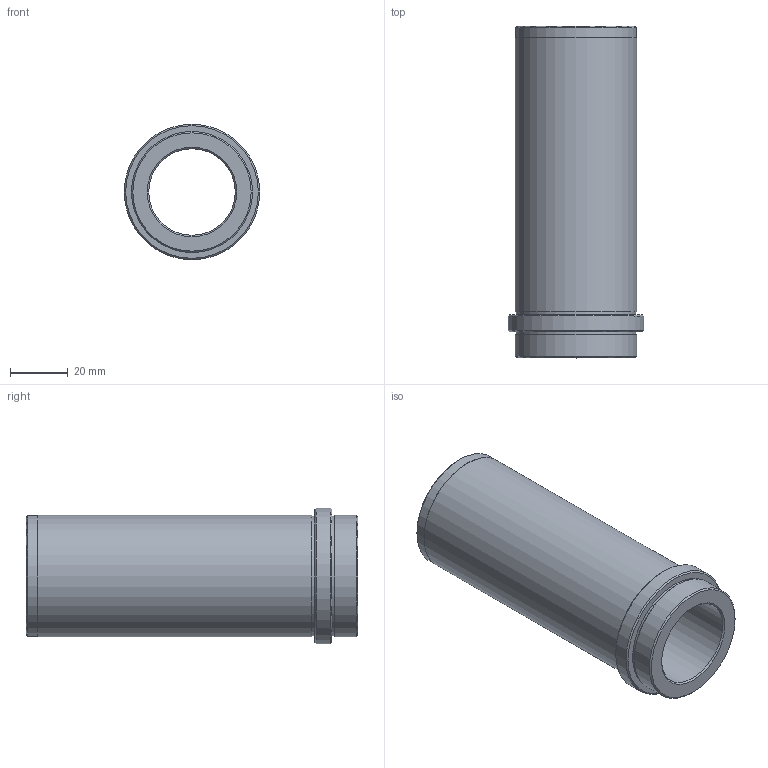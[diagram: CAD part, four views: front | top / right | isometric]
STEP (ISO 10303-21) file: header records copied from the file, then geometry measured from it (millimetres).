
FILE_DESCRIPTION( ( 'STEP AP203' ), '1' );
FILE_NAME( 'D:/Cuma/24 03 2009/D21/D21_30X106.step', '2002-12-31T22:07:51', ( ' ' ), ( ' ' ), 'XStep 1.0', ' ', ' ' );
FILE_SCHEMA( ( 'CONFIG_CONTROL_DESIGN' ) );
Length unit declared in the file: metre
Products named in the file (1): 1
Bounding box: 47 x 115 x 47 mm (x, y, z)
Volume: 79949.1 mm3; surface area: 28070 mm2
Topology: 1 solids, 1 shells, 20 faces, 33 edges, 20 vertices
Faces by surface type: cylinder 7, plane 7, cone 6
Full cylindrical faces by diameter (mm): 30 x1, 41.5 x2, 41.9 x1, 42 x2, 47 x1
Entity records: 453 total; most frequent: DIRECTION 82, CARTESIAN_POINT 61, AXIS2_PLACEMENT_3D 41, EDGE_LOOP 40, ORIENTED_EDGE 40, FACE_OUTER_BOUND 27, ADVANCED_FACE 20, EDGE_CURVE 20
